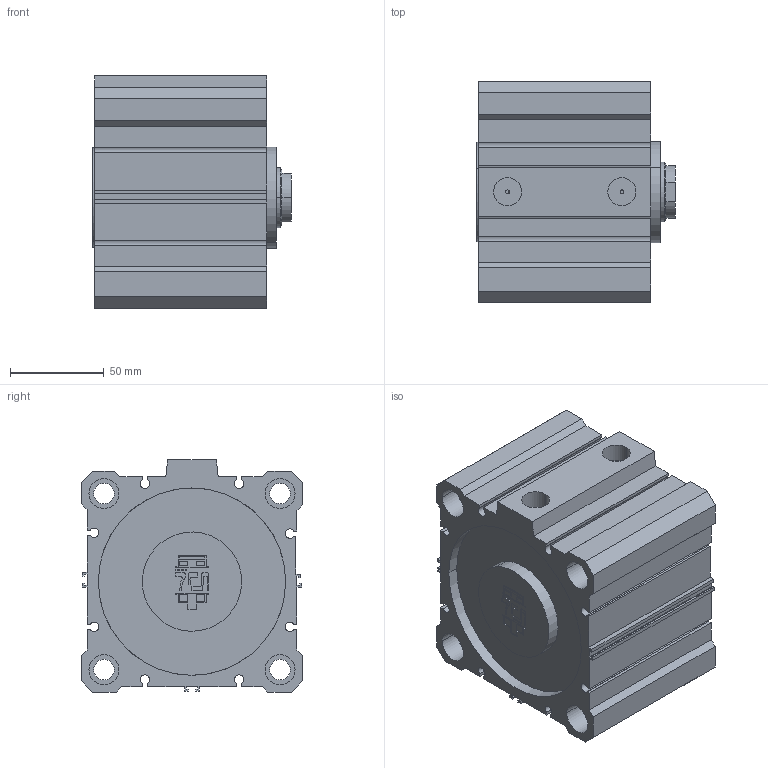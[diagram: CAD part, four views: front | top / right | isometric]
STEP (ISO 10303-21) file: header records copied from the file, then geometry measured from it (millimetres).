
FILE_DESCRIPTION(('CATIA V5 STEP Exchange'),'2;1');
FILE_NAME('D:\PDA\PDA-STP\PDA 100-32\PDA 100-32-35.stp','2016-02-03T05:45:44+00:00',('none'),('none'),'Version 5-6 Release 2012','CATIA V5 STEP AP203','none');
FILE_SCHEMA(('CONFIG_CONTROL_DESIGN'));
Length unit declared in the file: millimetre
Products named in the file (1): PDA 100-32-35-00
Assembly tree (2 placements, depth 2):
  PDA 100-32-35-00
    #58
    #7695
Bounding box: 106 x 118 x 124 mm (x, y, z)
Volume: 777524.9 mm3; surface area: 167363.2 mm2
Topology: 2 solids, 2 shells, 284 faces, 744 edges, 498 vertices
Faces by surface type: plane 202, cylinder 80, cone 2
Entity records: 8167 total; most frequent: ORIENTED_EDGE 1488, CARTESIAN_POINT 1432, DIRECTION 1124, EDGE_CURVE 744, VECTOR 574, LINE 574, VERTEX_POINT 498, AXIS2_PLACEMENT_3D 360
